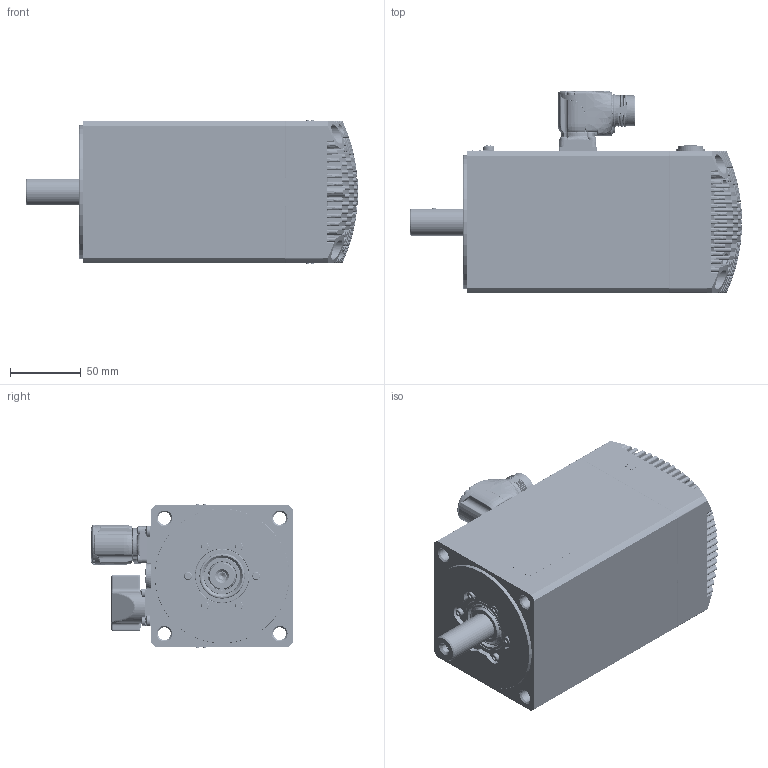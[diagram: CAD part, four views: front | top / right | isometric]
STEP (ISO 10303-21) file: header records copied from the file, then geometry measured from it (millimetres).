
FILE_DESCRIPTION((''),'2;1');
FILE_NAME('32190015747_ASM','2022-04-13T09:51:51',('gabrielec'),(''),'CREO PARAMETRIC BY PTC INC, 2021304','CREO PARAMETRIC BY PTC INC, 2021304','');
FILE_SCHEMA(('AP242_MANAGED_MODEL_BASED_3D_ENGINEERING_MIM_LF { 1 0 10303 442 1 1 4 }'));
Products named in the file (37): 52580N-0; 32149915564_ASM; 22320015080; 50938N-0; 22320015080_ASM; 32050015015_ASM; 32060015581_ASM; 51941N-1; 32090015035_ASM; NRG_001; M3X16_GBT70-1; GB_T862_1; M4X8_GBT818_CU; 51093N-0; 32159915248_ASM; 22160015160; MENTOR-1292_9013; CEMBRE_FD9; CEMBRE_2053M16N; 32150015177_ASM; UNI7687_M3X8_INOX; CAN_OPEN; 33200203857_AF9_ASM; 31500203857_AF9_ASM; 50941N-0; UNI7687_M3X6_INOX; UNI5931_M3X6_INOX; 22210015021; 32150015175_ASM; UNI5931_M4X16; LIP_SEAL_TW05; 22250015024; 22250015126; 43500000229; 43500000050; PHOENIX_1605512; 32190015747_ASM
Assembly tree (64 placements, depth 7):
  32190015747_ASM
    32159915248_ASM
      32149915564_ASM
        52580N-0
      32090015035_ASM
        32060015581_ASM
          32050015015_ASM
            22320015080_ASM
              22320015080
              50938N-0
        51941N-1
      NRG_001  x6
      M3X16_GBT70-1  x6
      GB_T862_1  x2
      M4X8_GBT818_CU  x2
      51093N-0
    32150015177_ASM
      22160015160
      MENTOR-1292_9013  x8
      CEMBRE_FD9
      CEMBRE_2053M16N
    UNI7687_M3X8_INOX  x4
    31500203857_AF9_ASM
      33200203857_AF9_ASM
        CAN_OPEN
    50941N-0  x2
    UNI7687_M3X6_INOX  x3
    UNI5931_M3X6_INOX
    32150015175_ASM
      22210015021
    UNI5931_M4X16  x4
    LIP_SEAL_TW05
    22250015024
    22250015126
    43500000229
    43500000050
    PHOENIX_1605512
Bounding box: 234 x 142.41 x 100.8 mm (x, y, z)
Volume: 718479.4 mm3; surface area: 348450.7 mm2
Topology: 74 solids, 101 shells, 4459 faces, 11223 edges, 7112 vertices
Faces by surface type: plane 1487, cylinder 1102, cone 655, bspline 596, torus 354, sphere 243, revolution 11, extrusion 11
Entity records: 192618 total; most frequent: CARTESIAN_POINT 67008, ORIENTED_EDGE 19750, DIRECTION 17908, PRESENTATION_STYLE_ASSIGNMENT 10158, EDGE_CURVE 9930, STYLED_ITEM 9928, CURVE_STYLE 9856, AXIS2_PLACEMENT_3D 7011
